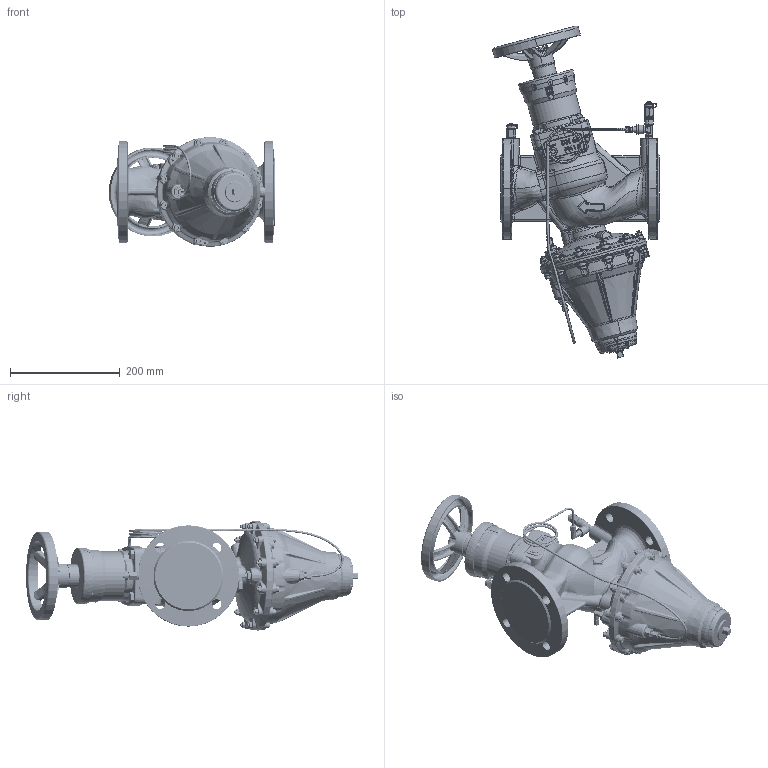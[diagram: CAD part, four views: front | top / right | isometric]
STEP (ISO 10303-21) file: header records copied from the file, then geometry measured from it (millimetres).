
FILE_DESCRIPTION (( 'STEP AP203' ), '1' );
FILE_NAME ('R_EKOFLUX.MH06516-1.STEP', '2022-03-24T14:17:48', ( '' ), ( '' ), 'SwSTEP 2.0', 'SolidWorks 2017', '' );
FILE_SCHEMA (( 'CONFIG_CONTROL_DESIGN' ));
Length unit declared in the file: millimetre
Products named in the file (1): R_EKOFLUX.MH06516-1
Bounding box: 304.43 x 606.24 x 199.65 mm (x, y, z)
Volume: 7447088.6 mm3; surface area: 604964.3 mm2
Topology: 1 solids, 121 shells, 5468 faces, 13454 edges, 8287 vertices
Faces by surface type: plane 1798, bspline 1689, cylinder 981, cone 558, torus 347, sphere 95
Entity records: 259935 total; most frequent: CARTESIAN_POINT 144556, ORIENTED_EDGE 26740, DIRECTION 19952, EDGE_CURVE 13370, VERTEX_POINT 8279, AXIS2_PLACEMENT_3D 7754, EDGE_LOOP 5801, FACE_OUTER_BOUND 5468
